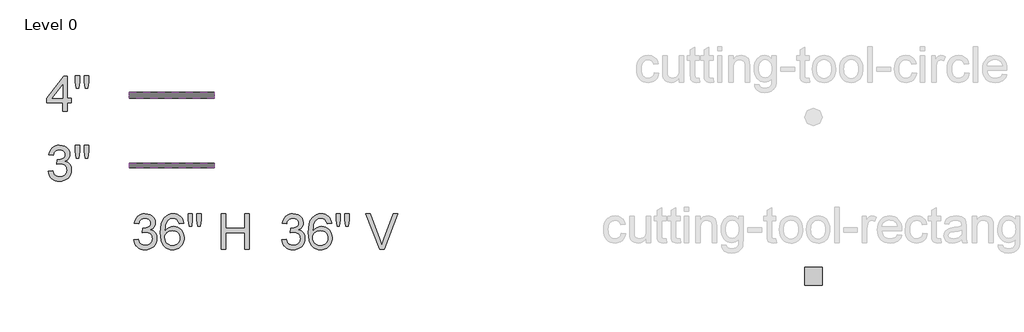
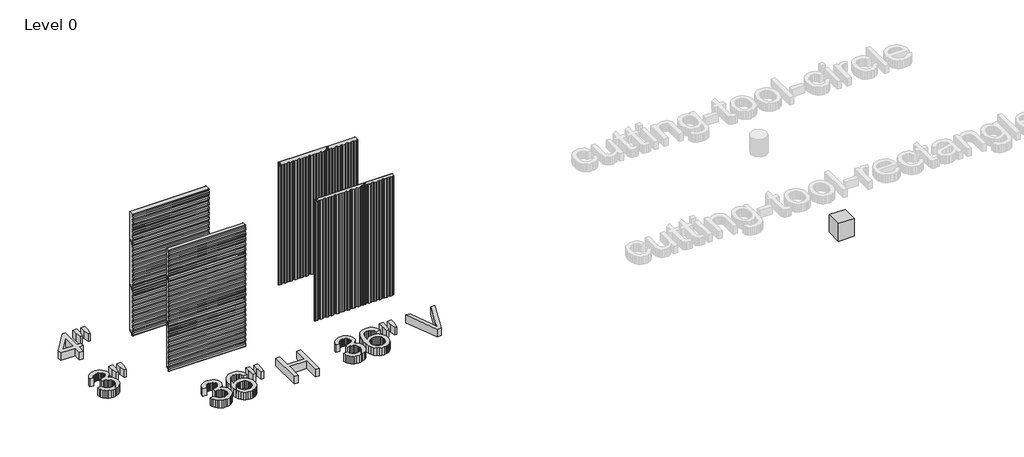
# One storey, part 1 of 3: 10 plates, 5 proxies.
"""IFC4 building model written with IfcOpenShell, lengths in millimetres."""

from ifc_helpers import new_model, si_unit, origin, origin_with_axes, place, context, project, spatial, polyline, outline, extrude, transform, mapped, element, save
from components import kingspan_ks_cutting_tool_rectangle_cutting_tool_rectangle_f435e5aa, plate_2009270f, plate_4b2a5aca, plate_8369e036, plate_16204ddc, plate_6bac3a30, plate_98482b00, plate_71bb4e5d, plate_9160dace

model = new_model("IFC4")

# Units and contexts
model_context = context("Model", 3, world=origin())
ifc_project = project(units=[si_unit("LENGTHUNIT", "METRE", prefix="MILLI")], contexts=[model_context])

# Site, building, storey
site = spatial("IfcSite", under=ifc_project)
building = spatial("IfcBuilding", under=site)
storey = spatial("IfcBuildingStorey", under=building, Name="Level 0", Elevation=0.0)

# Proxies
placement = place(None, origin())
element("IfcBuildingElementProxy", 1, Name="24\" Arial", ObjectType="24\" Arial", at=placement, inside=storey, context=model_context, shape_type="SweptSolid", body=[
    extrude(outline(polyline([(-10608.2990382, 10746.8117696), (-10532.1572647, 10756.3294913), (-10515.1108764, 10708.4806327), (-10503.6180416, 10690.383949), (-10490.1454463, 10676.172429), (-10474.3863671, 10665.4371081), (-10456.0340805, 10657.7690218), (-10435.0885865, 10653.16817), (-10411.5498852, 10651.6345528), (-10383.9633637, 10653.7444383), (-10359.3511303, 10660.074095), (-10337.7131849, 10670.6235229), (-10319.0495275, 10685.3927219), (-10304.0200783, 10703.2756286), (-10293.2847575, 10723.1661798), (-10286.8435649, 10745.0643754), (-10284.6965008, 10768.9702155), (-10286.8249756, 10791.7374608), (-10293.2104003, 10812.4505886), (-10303.8527746, 10831.1095986), (-10318.7520987, 10847.714491), (-10336.9324343, 10861.3450954), (-10357.4178431, 10871.0812413), (-10380.2083251, 10876.9229289), (-10405.3038803, 10878.8701581), (-10429.3584347, 10876.7881565), (-10458.6923504, 10870.5421516), (-10450.2156295, 10946.6839251), (-10438.0210486, 10945.7916387), (-10392.402906, 10951.256893), (-10351.6179814, 10967.6526557), (-10334.8318433, 10980.0517189), (-10322.8417447, 10995.3878916), (-10315.6476856, 11013.6611737), (-10313.2496658, 11034.8715652), (-10314.9877654, 11052.0899044), (-10320.2020641, 11067.7560372), (-10328.8925619, 11081.8699633), (-10341.0592589, 11094.4316829), (-10355.9678776, 11104.7440972), (-10372.8841408, 11112.1101074), (-10391.8080484, 11116.5297135), (-10412.7396004, 11118.0029155), (-10433.6153845, 11116.5157715), (-10452.6694172, 11112.0543395), (-10469.9016984, 11104.6186194), (-10485.3122283, 11094.2086113), (-10498.519926, 11080.8243152), (-10509.1437111, 11064.465731), (-10517.1835834, 11045.1328589), (-10522.639543, 11022.8256986), (-10598.7813165, 11032.3434203), (-10589.7562113, 11068.6947968), (-10576.3626205, 11100.7148664), (-10558.6005442, 11128.403629), (-10536.4699823, 11151.7610847), (-10510.6680337, 11170.3039116), (-10481.891797, 11183.548788), (-10450.1412723, 11191.4957138), (-10415.4164596, 11194.1446891), (-10367.5490117, 11188.9210957), (-10323.5853167, 11173.2503157), (-10286.5182522, 11148.5265464), (-10259.3406953, 11116.1439855), (-10242.6660931, 11078.8352601), (-10237.1078923, 11039.3329972), (-10242.3872536, 11002.5261829), (-10258.2253373, 10969.1397997), (-10284.399072, 10940.6981705), (-10320.6853859, 10918.7256177), (-10295.3109912, 10910.7879865), (-10273.0224203, 10899.4671027), (-10253.8196732, 10884.7629662), (-10237.7027499, 10866.6755772), (-10224.95049, 10845.6510787), (-10215.8417329, 10822.135614), (-10210.3764787, 10796.129183), (-10208.5547273, 10767.6317858), (-10212.1982301, 10729.0032201), (-10223.1287386, 10693.4232995), (-10241.3462528, 10660.8920242), (-10266.8507726, 10631.4093942), (-10297.9227879, 10606.9458751), (-10332.8427882, 10589.471933), (-10371.6107737, 10578.9875677), (-10414.2267444, 10575.4927792), (-10452.7437744, 10578.4763619), (-10487.8403731, 10587.4271099), (-10519.5165406, 10602.3450233), (-10547.7722769, 10623.2301021), (-10571.4643399, 10648.8554524), (-10589.4494878, 10677.9941804), (-10601.7277206, 10710.6462862), (-10608.2990382, 10746.8117696)])), origin_with_axes(), (0.0, 0.0, 1.0), 152.4),
    extrude(outline(polyline([(-10123.3413753, 10975.2370902), (-10141.9306754, 11092.8701817), (-10141.9306754, 11194.1446891), (-10065.7889019, 11194.1446891), (-10065.7889019, 11092.8701817), (-10082.4449149, 10975.2370902), (-10123.3413753, 10975.2370902)])), origin_with_axes(), (0.0, 0.0, 1.0), 152.4),
    extrude(outline(polyline([(-9971.5039714, 10975.2370902), (-9989.6471284, 11092.8701817), (-9989.6471284, 11194.1446891), (-9913.5053549, 11194.1446891), (-9913.5053549, 11092.8701817), (-9931.3510831, 10975.2370902), (-9971.5039714, 10975.2370902)])), origin_with_axes(), (0.0, 0.0, 1.0), 152.4),
])
element("IfcBuildingElementProxy", 2, Name="24\" Arial", ObjectType="24\" Arial", at=placement, inside=storey, context=model_context, shape_type="SweptSolid", body=[
    extrude(outline(polyline([(-10360.8382743, 11778.8105009), (-10360.8382743, 11921.5763263), (-10636.8522033, 11921.5763263), (-10636.8522033, 11997.7180998), (-10341.8028309, 12378.4269674), (-10284.6965008, 12378.4269674), (-10284.6965008, 11997.7180998), (-10208.5547273, 11997.7180998), (-10208.5547273, 11921.5763263), (-10284.6965008, 11921.5763263), (-10284.6965008, 11778.8105009), (-10360.8382743, 11778.8105009)]), holes=[polyline([(-10360.8382743, 11997.7180998), (-10360.8382743, 12232.9842828), (-10543.1621304, 11997.7180998), (-10360.8382743, 11997.7180998)])]), origin_with_axes(), (0.0, 0.0, 1.0), 152.4),
    extrude(outline(polyline([(-10123.3413753, 12169.0370902), (-10141.9306754, 12286.6701817), (-10141.9306754, 12387.9446891), (-10065.7889019, 12387.9446891), (-10065.7889019, 12286.6701817), (-10082.4449149, 12169.0370902), (-10123.3413753, 12169.0370902)])), origin_with_axes(), (0.0, 0.0, 1.0), 152.4),
    extrude(outline(polyline([(-9971.5039714, 12169.0370902), (-9989.6471284, 12286.6701817), (-9989.6471284, 12387.9446891), (-9913.5053549, 12387.9446891), (-9913.5053549, 12286.6701817), (-9931.3510831, 12169.0370902), (-9971.5039714, 12169.0370902)])), origin_with_axes(), (0.0, 0.0, 1.0), 152.4),
])
element("IfcBuildingElementProxy", 3, Name="24\" Arial", ObjectType="24\" Arial", at=placement, inside=storey, context=model_context, shape_type="SweptSolid", body=[
    extrude(outline(polyline([(-9140.6542068, 9571.2418107), (-9064.5124333, 9580.7595324), (-9047.466045, 9532.9106738), (-9035.9732102, 9514.8139901), (-9022.5006149, 9500.6024701), (-9006.7415357, 9489.8671492), (-8988.3892491, 9482.1990629), (-8967.4437551, 9477.5982111), (-8943.9050537, 9476.0645938), (-8916.3185323, 9478.1744794), (-8891.7062988, 9484.5041361), (-8870.0683534, 9495.053564), (-8851.4046961, 9509.822763), (-8836.3752469, 9527.7056697), (-8825.639926, 9547.5962209), (-8819.1987335, 9569.4944165), (-8817.0516693, 9593.4002566), (-8819.1801442, 9616.1675019), (-8825.5655688, 9636.8806297), (-8836.2079432, 9655.5396397), (-8851.1072673, 9672.1445321), (-8869.2876028, 9685.7751364), (-8889.7730116, 9695.5112824), (-8912.5634936, 9701.35297), (-8937.6590489, 9703.3001992), (-8961.7136033, 9701.2181976), (-8991.047519, 9694.9721927), (-8982.5707981, 9771.1139662), (-8970.3762172, 9770.2216798), (-8924.7580746, 9775.6869341), (-8883.97315, 9792.0826968), (-8867.1870119, 9804.48176), (-8855.1969133, 9819.8179327), (-8848.0028541, 9838.0912148), (-8845.6048344, 9859.3016063), (-8847.342934, 9876.5199455), (-8852.5572327, 9892.1860783), (-8861.2477305, 9906.3000044), (-8873.4144275, 9918.861724), (-8888.3230462, 9929.1741383), (-8905.2393094, 9936.5401485), (-8924.163217, 9940.9597546), (-8945.0947689, 9942.4329566), (-8965.970553, 9940.9458126), (-8985.0245857, 9936.4843806), (-9002.256867, 9929.0486605), (-9017.6673968, 9918.6386524), (-9030.8750946, 9905.2543563), (-9041.4988797, 9888.8957721), (-9049.538752, 9869.5629), (-9054.9947116, 9847.2557397), (-9131.1364851, 9856.7734614), (-9122.1113799, 9893.1248379), (-9108.7177891, 9925.1449075), (-9090.9557128, 9952.8336701), (-9068.8251509, 9976.1911258), (-9043.0232023, 9994.7339527), (-9014.2469656, 10007.9788291), (-8982.4964409, 10015.9257549), (-8947.7716282, 10018.5747302), (-8899.9041802, 10013.3511368), (-8855.9404853, 9997.6803568), (-8818.8734208, 9972.9565875), (-8791.6958639, 9940.5740266), (-8775.0212616, 9903.2653012), (-8769.4630609, 9863.7630383), (-8774.7424221, 9826.956224), (-8790.5805059, 9793.5698408), (-8816.7542405, 9765.1282116), (-8853.0405545, 9743.1556588), (-8827.6661597, 9735.2180276), (-8805.3775888, 9723.8971438), (-8786.1748418, 9709.1930073), (-8770.0579185, 9691.1056183), (-8757.3056586, 9670.0811198), (-8748.1969015, 9646.5656551), (-8742.7316472, 9620.5592241), (-8740.9098958, 9592.0618269), (-8744.5533987, 9553.4332612), (-8755.4839072, 9517.8533406), (-8773.7014213, 9485.3220653), (-8799.2059412, 9455.8394353), (-8830.2779564, 9431.3759162), (-8865.1979568, 9413.9019741), (-8903.9659423, 9403.4176088), (-8946.581913, 9399.9228203), (-8985.0989429, 9402.906403), (-9020.1955417, 9411.857151), (-9051.8717092, 9426.7750644), (-9080.1274454, 9447.6601432), (-9103.8195085, 9473.2854935), (-9121.8046564, 9502.4242215), (-9134.0828892, 9535.0763273), (-9140.6542068, 9571.2418107)])), origin_with_axes(), (0.0, 0.0, 1.0), 152.4),
    extrude(outline(polyline([(-8284.0592547, 9856.7734614), (-8360.2010282, 9847.2557397), (-8372.4699664, 9884.9920191), (-8389.0516221, 9910.7567891), (-8405.4195009, 9924.6151124), (-8423.5905418, 9934.5139148), (-8443.5647449, 9940.4531962), (-8465.34211, 9942.4329566), (-8500.7361376, 9937.8228102), (-8534.0481635, 9923.9923709), (-8562.6570964, 9894.8629375), (-8586.0238468, 9854.765817), (-8595.1558405, 9829.1915873), (-8601.8061626, 9798.0498622), (-8607.6617922, 9719.0639257), (-8577.119572, 9754.6996142), (-8540.5172399, 9779.8137587), (-8499.8996191, 9794.7037881), (-8457.3115324, 9799.6671313), (-8420.7277896, 9796.274584), (-8386.9696205, 9786.0969422), (-8356.037025, 9769.1342058), (-8327.9300031, 9745.3863748), (-8304.5725475, 9716.2662361), (-8287.8886506, 9683.1865764), (-8277.8783124, 9646.1473958), (-8274.541533, 9605.1486943), (-8276.1123289, 9577.3902218), (-8280.8247165, 9550.6262768), (-8288.6786958, 9524.8568595), (-8299.6742669, 9500.0819697), (-8313.4210543, 9477.2264251), (-8329.528683, 9457.2150435), (-8347.9971527, 9440.0478248), (-8368.8264635, 9425.724769), (-8391.5704723, 9414.4364164), (-8415.7830358, 9406.3733075), (-8441.464154, 9401.5354421), (-8468.6138269, 9399.9228203), (-8514.0042506, 9404.1983594), (-8554.9983048, 9417.0249765), (-8591.5959895, 9438.4026717), (-8623.7973047, 9468.331445), (-8650.0500439, 9508.0753687), (-8668.8020004, 9558.8985154), (-8680.0531744, 9620.800885), (-8683.8035657, 9693.7824775), (-8679.6395624, 9775.6032822), (-8667.1475527, 9845.4339883), (-8646.3275365, 9903.2745958), (-8632.794526, 9927.6986126), (-8617.1795139, 9949.1251047), (-8585.5869982, 9979.5093158), (-8548.9567822, 10001.2123238), (-8507.2888659, 10014.2341286), (-8460.5832492, 10018.5747302), (-8425.5145344, 10015.8885763), (-8393.7733044, 10007.8301147), (-8365.359559, 9994.3993453), (-8340.2732985, 9975.5962682), (-8319.1930321, 9952.0529195), (-8302.7972693, 9924.4013355), (-8291.0860102, 9892.6415161), (-8284.0592547, 9856.7734614)]), holes=[polyline([(-8607.6617922, 9606.3384095), (-8603.256128, 9572.5988297), (-8590.0391356, 9540.3835725), (-8569.5165482, 9512.6855152), (-8543.1940992, 9492.4975352), (-8511.4249852, 9480.1728292), (-8474.5624029, 9476.0645938), (-8448.0958868, 9478.1930687), (-8424.3155245, 9484.5784933), (-8403.2213162, 9495.2208677), (-8384.8132617, 9510.1201918), (-8369.8814063, 9528.6723133), (-8359.2157953, 9550.2730801), (-8352.8164287, 9574.9224922), (-8350.6833065, 9602.6205494), (-8352.7885448, 9629.23578), (-8359.1042595, 9652.8674278), (-8369.6304508, 9673.515493), (-8384.3671185, 9691.1799755), (-8402.8309409, 9705.3310802), (-8424.5385961, 9715.4390122), (-8449.4900843, 9721.5037714), (-8477.6854053, 9723.5253578), (-8503.7987248, 9721.5037714), (-8527.8579265, 9715.4390122), (-8549.8630106, 9705.3310802), (-8569.813977, 9691.1799755), (-8586.3723961, 9673.7478592), (-8598.1998384, 9653.7968928), (-8605.2963037, 9631.3270762), (-8607.6617922, 9606.3384095)])]), origin_with_axes(), (0.0, 0.0, 1.0), 152.4),
    extrude(outline(polyline([(-8189.328181, 9799.6671313), (-8207.9174812, 9917.3002228), (-8207.9174812, 10018.5747302), (-8131.7757077, 10018.5747302), (-8131.7757077, 9917.3002228), (-8148.4317206, 9799.6671313), (-8189.328181, 9799.6671313)])), origin_with_axes(), (0.0, 0.0, 1.0), 152.4),
    extrude(outline(polyline([(-8037.4907772, 9799.6671313), (-8055.6339342, 9917.3002228), (-8055.6339342, 10018.5747302), (-7979.4921607, 10018.5747302), (-7979.4921607, 9917.3002228), (-7997.3378888, 9799.6671313), (-8037.4907772, 9799.6671313)])), origin_with_axes(), (0.0, 0.0, 1.0), 152.4),
    extrude(outline(polyline([(-7636.8541798, 9409.440542), (-7636.8541798, 10018.5747302), (-7560.7124063, 10018.5747302), (-7560.7124063, 9771.1139662), (-7237.1098689, 9771.1139662), (-7237.1098689, 10018.5747302), (-7160.9680953, 10018.5747302), (-7160.9680953, 9409.440542), (-7237.1098689, 9409.440542), (-7237.1098689, 9694.9721927), (-7560.7124063, 9694.9721927), (-7560.7124063, 9409.440542), (-7636.8541798, 9409.440542)])), origin_with_axes(), (0.0, 0.0, 1.0), 152.4),
])
element("IfcBuildingElementProxy", 4, Name="24\" Arial", ObjectType="24\" Arial", at=placement, inside=storey, context=model_context, shape_type="SweptSolid", body=[
    extrude(outline(polyline([(-6600.6542068, 9571.2418107), (-6524.5124333, 9580.7595324), (-6507.466045, 9532.9106738), (-6495.9732102, 9514.8139901), (-6482.5006149, 9500.6024701), (-6466.7415357, 9489.8671492), (-6448.3892491, 9482.1990629), (-6427.4437551, 9477.5982111), (-6403.9050537, 9476.0645938), (-6376.3185323, 9478.1744794), (-6351.7062988, 9484.5041361), (-6330.0683534, 9495.053564), (-6311.4046961, 9509.822763), (-6296.3752469, 9527.7056697), (-6285.639926, 9547.5962209), (-6279.1987335, 9569.4944165), (-6277.0516693, 9593.4002566), (-6279.1801442, 9616.1675019), (-6285.5655688, 9636.8806297), (-6296.2079432, 9655.5396397), (-6311.1072673, 9672.1445321), (-6329.2876028, 9685.7751364), (-6349.7730116, 9695.5112824), (-6372.5634936, 9701.35297), (-6397.6590489, 9703.3001992), (-6421.7136033, 9701.2181976), (-6451.047519, 9694.9721927), (-6442.5707981, 9771.1139662), (-6430.3762172, 9770.2216798), (-6384.7580746, 9775.6869341), (-6343.97315, 9792.0826968), (-6327.1870119, 9804.48176), (-6315.1969133, 9819.8179327), (-6308.0028541, 9838.0912148), (-6305.6048344, 9859.3016063), (-6307.342934, 9876.5199455), (-6312.5572327, 9892.1860783), (-6321.2477305, 9906.3000044), (-6333.4144275, 9918.861724), (-6348.3230462, 9929.1741383), (-6365.2393094, 9936.5401485), (-6384.163217, 9940.9597546), (-6405.0947689, 9942.4329566), (-6425.970553, 9940.9458126), (-6445.0245857, 9936.4843806), (-6462.256867, 9929.0486605), (-6477.6673968, 9918.6386524), (-6490.8750946, 9905.2543563), (-6501.4988797, 9888.8957721), (-6509.538752, 9869.5629), (-6514.9947116, 9847.2557397), (-6591.1364851, 9856.7734614), (-6582.1113799, 9893.1248379), (-6568.7177891, 9925.1449075), (-6550.9557128, 9952.8336701), (-6528.8251509, 9976.1911258), (-6503.0232023, 9994.7339527), (-6474.2469656, 10007.9788291), (-6442.4964409, 10015.9257549), (-6407.7716282, 10018.5747302), (-6359.9041802, 10013.3511368), (-6315.9404853, 9997.6803568), (-6278.8734208, 9972.9565875), (-6251.6958639, 9940.5740266), (-6235.0212616, 9903.2653012), (-6229.4630609, 9863.7630383), (-6234.7424221, 9826.956224), (-6250.5805059, 9793.5698408), (-6276.7542405, 9765.1282116), (-6313.0405545, 9743.1556588), (-6287.6661597, 9735.2180276), (-6265.3775888, 9723.8971438), (-6246.1748418, 9709.1930073), (-6230.0579185, 9691.1056183), (-6217.3056586, 9670.0811198), (-6208.1969015, 9646.5656551), (-6202.7316472, 9620.5592241), (-6200.9098958, 9592.0618269), (-6204.5533987, 9553.4332612), (-6215.4839072, 9517.8533406), (-6233.7014213, 9485.3220653), (-6259.2059412, 9455.8394353), (-6290.2779564, 9431.3759162), (-6325.1979568, 9413.9019741), (-6363.9659423, 9403.4176088), (-6406.581913, 9399.9228203), (-6445.0989429, 9402.906403), (-6480.1955417, 9411.857151), (-6511.8717092, 9426.7750644), (-6540.1274454, 9447.6601432), (-6563.8195085, 9473.2854935), (-6581.8046564, 9502.4242215), (-6594.0828892, 9535.0763273), (-6600.6542068, 9571.2418107)])), origin_with_axes(), (0.0, 0.0, 1.0), 152.4),
    extrude(outline(polyline([(-5744.0592547, 9856.7734614), (-5820.2010282, 9847.2557397), (-5832.4699664, 9884.9920191), (-5849.0516221, 9910.7567891), (-5865.4195009, 9924.6151124), (-5883.5905418, 9934.5139148), (-5903.5647449, 9940.4531962), (-5925.34211, 9942.4329566), (-5960.7361376, 9937.8228102), (-5994.0481635, 9923.9923709), (-6022.6570964, 9894.8629375), (-6046.0238468, 9854.765817), (-6055.1558405, 9829.1915873), (-6061.8061626, 9798.0498622), (-6067.6617922, 9719.0639257), (-6037.119572, 9754.6996142), (-6000.5172399, 9779.8137587), (-5959.8996191, 9794.7037881), (-5917.3115324, 9799.6671313), (-5880.7277896, 9796.274584), (-5846.9696205, 9786.0969422), (-5816.037025, 9769.1342058), (-5787.9300031, 9745.3863748), (-5764.5725475, 9716.2662361), (-5747.8886506, 9683.1865764), (-5737.8783124, 9646.1473958), (-5734.541533, 9605.1486943), (-5736.1123289, 9577.3902218), (-5740.8247165, 9550.6262768), (-5748.6786958, 9524.8568595), (-5759.6742669, 9500.0819697), (-5773.4210543, 9477.2264251), (-5789.528683, 9457.2150435), (-5807.9971527, 9440.0478248), (-5828.8264635, 9425.724769), (-5851.5704723, 9414.4364164), (-5875.7830358, 9406.3733075), (-5901.464154, 9401.5354421), (-5928.6138269, 9399.9228203), (-5974.0042506, 9404.1983594), (-6014.9983048, 9417.0249765), (-6051.5959895, 9438.4026717), (-6083.7973047, 9468.331445), (-6110.0500439, 9508.0753687), (-6128.8020004, 9558.8985154), (-6140.0531744, 9620.800885), (-6143.8035657, 9693.7824775), (-6139.6395624, 9775.6032822), (-6127.1475527, 9845.4339883), (-6106.3275365, 9903.2745958), (-6092.794526, 9927.6986126), (-6077.1795139, 9949.1251047), (-6045.5869982, 9979.5093158), (-6008.9567822, 10001.2123238), (-5967.2888659, 10014.2341286), (-5920.5832492, 10018.5747302), (-5885.5145344, 10015.8885763), (-5853.7733044, 10007.8301147), (-5825.359559, 9994.3993453), (-5800.2732985, 9975.5962682), (-5779.1930321, 9952.0529195), (-5762.7972693, 9924.4013355), (-5751.0860102, 9892.6415161), (-5744.0592547, 9856.7734614)]), holes=[polyline([(-6067.6617922, 9606.3384095), (-6063.256128, 9572.5988297), (-6050.0391356, 9540.3835725), (-6029.5165482, 9512.6855152), (-6003.1940992, 9492.4975352), (-5971.4249852, 9480.1728292), (-5934.5624029, 9476.0645938), (-5908.0958868, 9478.1930687), (-5884.3155245, 9484.5784933), (-5863.2213162, 9495.2208677), (-5844.8132617, 9510.1201918), (-5829.8814063, 9528.6723133), (-5819.2157953, 9550.2730801), (-5812.8164287, 9574.9224922), (-5810.6833065, 9602.6205494), (-5812.7885448, 9629.23578), (-5819.1042595, 9652.8674278), (-5829.6304508, 9673.515493), (-5844.3671185, 9691.1799755), (-5862.8309409, 9705.3310802), (-5884.5385961, 9715.4390122), (-5909.4900843, 9721.5037714), (-5937.6854053, 9723.5253578), (-5963.7987248, 9721.5037714), (-5987.8579265, 9715.4390122), (-6009.8630106, 9705.3310802), (-6029.813977, 9691.1799755), (-6046.3723961, 9673.7478592), (-6058.1998384, 9653.7968928), (-6065.2963037, 9631.3270762), (-6067.6617922, 9606.3384095)])]), origin_with_axes(), (0.0, 0.0, 1.0), 152.4),
    extrude(outline(polyline([(-5649.328181, 9799.6671313), (-5667.9174812, 9917.3002228), (-5667.9174812, 10018.5747302), (-5591.7757077, 10018.5747302), (-5591.7757077, 9917.3002228), (-5608.4317206, 9799.6671313), (-5649.328181, 9799.6671313)])), origin_with_axes(), (0.0, 0.0, 1.0), 152.4),
    extrude(outline(polyline([(-5497.4907772, 9799.6671313), (-5515.6339342, 9917.3002228), (-5515.6339342, 10018.5747302), (-5439.4921607, 10018.5747302), (-5439.4921607, 9917.3002228), (-5457.3378888, 9799.6671313), (-5497.4907772, 9799.6671313)])), origin_with_axes(), (0.0, 0.0, 1.0), 152.4),
    extrude(outline(polyline([(-4916.9097541, 9409.440542), (-5159.3142284, 10018.5747302), (-5077.8187364, 10018.5747302), (-4915.5713245, 9579.7185316), (-4882.7054418, 9480.8234547), (-4850.2857023, 9579.7185316), (-4687.5921472, 10018.5747302), (-4606.0966552, 10018.5747302), (-4838.2398358, 9409.440542), (-4916.9097541, 9409.440542)])), origin_with_axes(), (0.0, 0.0, 1.0), 152.4),
])
kingspan_ks_cutting_tool_rectangle_cutting_tool_rectangle_shape = kingspan_ks_cutting_tool_rectangle_cutting_tool_rectangle_f435e5aa(model_context)
element("IfcBuildingElementProxy", 5, Name="kingspan-ks-cutting-tool-rectangle : cutting-tool-rectangle", ObjectType="kingspan-ks-cutting-tool-rectangle : cutting-tool-rectangle", at=placement, inside=storey, context=model_context, shape_type="MappedRepresentation", body=[
    mapped(kingspan_ks_cutting_tool_rectangle_cutting_tool_rectangle_shape, transform((2526.7178079, 8943.5789101, 0.0), x_axis=(1.0, 0.0, 0.0), y_axis=(0.0, 1.0, 0.0), z_axis=(0.0, 0.0, 1.0))),
])

# Plates
plate_shape = plate_2009270f(model_context)
element("IfcPlate", 6, ObjectType="KIP-36-Vale-R19-CP-Hz : Hz 3\"", at=placement, inside=storey, context=model_context, shape_type="MappedRepresentation", body=[
    mapped(plate_shape, transform((-8488.9413836, 10881.8207172, 0.0), x_axis=(1.0, 0.0, 0.0), y_axis=(0.0, 1.0, 0.0), z_axis=(0.0, 0.0, 1.0))),
])
element("IfcPlate", 7, ObjectType="KIP-36-Vale-R19-CP-Hz : Hz 3\"", at=placement, inside=storey, context=model_context, shape_type="MappedRepresentation", body=[
    mapped(plate_shape, transform((-8488.9413836, 10881.8207172, 914.4), x_axis=(1.0, 0.0, 0.0), y_axis=(0.0, 1.0, 0.0), z_axis=(0.0, 0.0, 1.0))),
])
plate_2_shape = plate_4b2a5aca(model_context)
element("IfcPlate", 8, ObjectType="KIP-36-Vale-R19-CP-Hz : Hz 3\"", at=placement, inside=storey, context=model_context, shape_type="MappedRepresentation", body=[
    mapped(plate_2_shape, transform((-8488.9413836, 10881.8207172, 1828.8), x_axis=(1.0, 0.0, 0.0), y_axis=(0.0, 1.0, 0.0), z_axis=(0.0, 0.0, 1.0))),
])
plate_3_shape = plate_8369e036(model_context)
element("IfcPlate", 9, ObjectType="KIP-36-Vale-R19-CP-Hz : Hz 4\"", at=placement, inside=storey, context=model_context, shape_type="MappedRepresentation", body=[
    mapped(plate_3_shape, transform((-8488.9413836, 12101.0207172, 0.0), x_axis=(1.0, 0.0, 0.0), y_axis=(0.0, 1.0, 0.0), z_axis=(0.0, 0.0, 1.0))),
])
element("IfcPlate", 10, ObjectType="KIP-36-Vale-R19-CP-Hz : Hz 4\"", at=placement, inside=storey, context=model_context, shape_type="MappedRepresentation", body=[
    mapped(plate_3_shape, transform((-8488.9413836, 12101.0207172, 914.4), x_axis=(1.0, 0.0, 0.0), y_axis=(0.0, 1.0, 0.0), z_axis=(0.0, 0.0, 1.0))),
])
plate_4_shape = plate_16204ddc(model_context)
element("IfcPlate", 11, ObjectType="KIP-36-Vale-R19-CP-Hz : Hz 4\"", at=placement, inside=storey, context=model_context, shape_type="MappedRepresentation", body=[
    mapped(plate_4_shape, transform((-8488.9413836, 12101.0207172, 1828.8), x_axis=(1.0, 0.0, 0.0), y_axis=(0.0, 1.0, 0.0), z_axis=(0.0, 0.0, 1.0))),
])
plate_5_shape = plate_6bac3a30(model_context)
element("IfcPlate", 12, ObjectType="KIP-36-Vale-R19-CP-Vt : Vt 3\"", at=placement, inside=storey, context=model_context, shape_type="MappedRepresentation", body=[
    mapped(plate_5_shape, transform((-5927.5250934, 10881.8207172, 0.0), x_axis=(1.0, 0.0, 0.0), y_axis=(0.0, 1.0, 0.0), z_axis=(0.0, 0.0, 1.0))),
])
plate_6_shape = plate_98482b00(model_context)
element("IfcPlate", 13, ObjectType="KIP-36-Vale-R19-CP-Vt : Vt 3\"", at=placement, inside=storey, context=model_context, shape_type="MappedRepresentation", body=[
    mapped(plate_6_shape, transform((-5197.5250934, 10881.8207172, 0.0), x_axis=(1.0, 0.0, 0.0), y_axis=(0.0, 1.0, 0.0), z_axis=(0.0, 0.0, 1.0))),
])
plate_7_shape = plate_71bb4e5d(model_context)
element("IfcPlate", 14, ObjectType="KIP-36-Vale-R19-CP-Vt : Vt 4\"", at=placement, inside=storey, context=model_context, shape_type="MappedRepresentation", body=[
    mapped(plate_7_shape, transform((-5927.5250934, 12101.0207172, 0.0), x_axis=(1.0, 0.0, 0.0), y_axis=(0.0, 1.0, 0.0), z_axis=(0.0, 0.0, 1.0))),
])
plate_8_shape = plate_9160dace(model_context)
element("IfcPlate", 15, ObjectType="KIP-36-Vale-R19-CP-Vt : Vt 4\"", at=placement, inside=storey, context=model_context, shape_type="MappedRepresentation", body=[
    mapped(plate_8_shape, transform((-5197.5250934, 12101.0207172, 0.0), x_axis=(1.0, 0.0, 0.0), y_axis=(0.0, 1.0, 0.0), z_axis=(0.0, 0.0, 1.0))),
])

save(model, "model.ifc")
